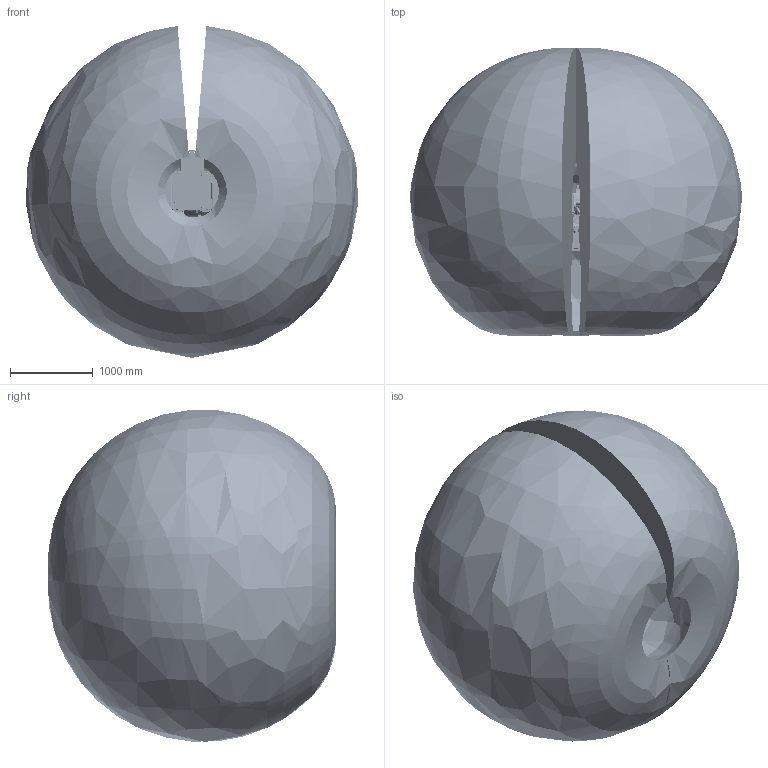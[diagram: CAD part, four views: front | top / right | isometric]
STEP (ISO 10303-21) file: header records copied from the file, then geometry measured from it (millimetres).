
FILE_DESCRIPTION((''),'2;1');
FILE_NAME('R70-2000B00_ASM','2023-10-14T16:12:48',('zty'),(''),'CREO PARAMETRIC BY PTC INC, 2018260','CREO PARAMETRIC BY PTC INC, 2018260','');
FILE_SCHEMA(('CONFIG_CONTROL_DESIGN','SHAPE_APPEARANCE_LAYERS_GROUPS'));
Products named in the file (11): R70-2000B_BASE; R70-2000B_JOINT1; R70-2000B_JOINT2; R70-2000B_JOINT3; R70-2000B_JOINT4; R70-2000B_JOINT5; R70-2000B_JOINT6; R70-2000B_CABLE; R70-2000B_RANGE100; R70-2000B_RANGE200; R70-2000B00_ASM
Assembly tree (10 placements, depth 2):
  R70-2000B00_ASM
    R70-2000B_BASE
    R70-2000B_JOINT1
    R70-2000B_JOINT2
    R70-2000B_JOINT3
    R70-2000B_JOINT4
    R70-2000B_JOINT5
    R70-2000B_JOINT6
    R70-2000B_CABLE
    R70-2000B_RANGE100
    R70-2000B_RANGE200
Bounding box: 4008.76 x 3479.61 x 4010.2 mm (x, y, z)
Volume: 29404699458 mm3; surface area: 86774593.1 mm2
Topology: 10 solids, 82 shells, 20179 faces, 50619 edges, 30855 vertices
Faces by surface type: cylinder 6828, plane 6683, torus 2550, bspline 1914, cone 1482, sphere 722
Entity records: 771330 total; most frequent: CARTESIAN_POINT 226867, ORIENTED_EDGE 99712, DIRECTION 98658, EDGE_CURVE 49856, AXIS2_PLACEMENT_3D 38205, VERTEX_POINT 30853, VECTOR 22248, LINE 22248
